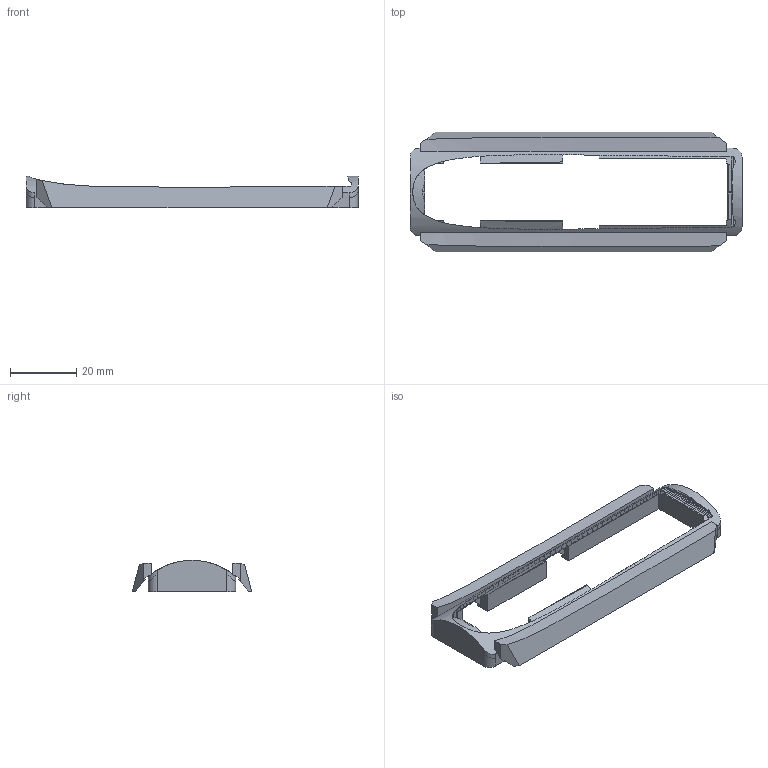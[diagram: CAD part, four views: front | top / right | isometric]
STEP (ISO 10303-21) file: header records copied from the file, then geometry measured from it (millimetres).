
FILE_DESCRIPTION(('SkyG Speed 90B - revision C6B-20 - 2026-10-16','WF-wing-window-filler'),'2;1');
FILE_NAME('WF-wing-window-filler_C6B-20','2026-10-16T01:43:26',('Author'),( 'Open CASCADE'),'Open CASCADE STEP processor 7.9','Open CASCADE 7.9' ,'Unknown');
FILE_SCHEMA(('AUTOMOTIVE_DESIGN { 1 0 10303 214 1 1 1 1 }'));
Products named in the file (1): WF-wing-window-filler C6B-20
Bounding box: 100.4 x 36.16 x 9.5 mm (x, y, z)
Volume: 7836.8 mm3; surface area: 8132.1 mm2
Topology: 1 solids, 1 shells, 373 faces, 1060 edges, 688 vertices
Faces by surface type: plane 203, bspline 150, cylinder 20
Entity records: 48844 total; most frequent: CARTESIAN_POINT 30725, DIRECTION 2378, ORIENTED_EDGE 2120, PCURVE 2120, DEFINITIONAL_REPRESENTATION 2120, B_SPLINE_CURVE_WITH_KNOTS 1501, LINE 1168, VECTOR 1168
